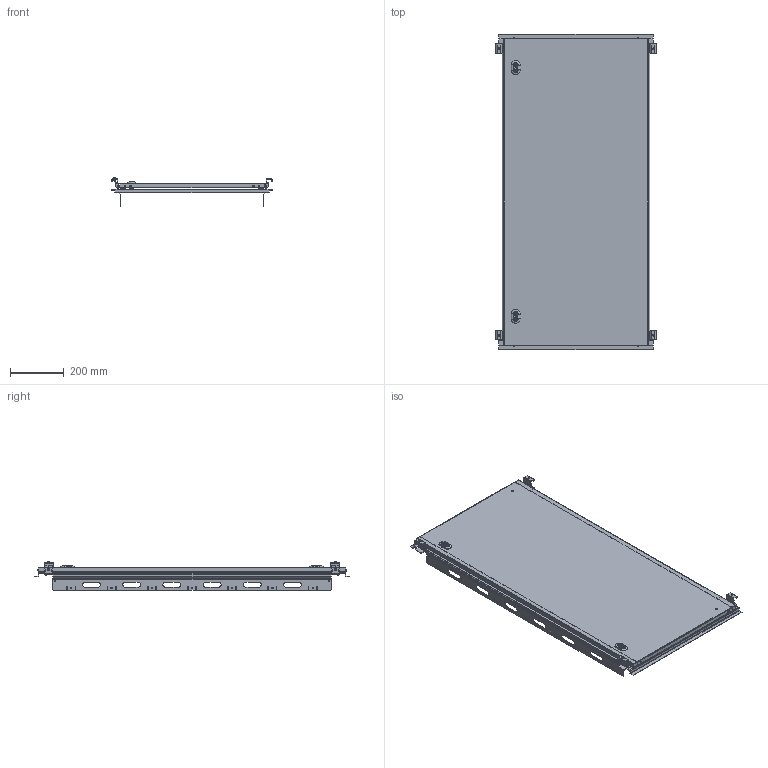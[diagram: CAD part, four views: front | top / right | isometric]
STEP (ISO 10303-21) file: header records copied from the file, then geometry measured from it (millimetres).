
FILE_DESCRIPTION (( 'STEP AP203' ), '1' );
FILE_NAME ('ECPI060120.STEP', '2021-04-09T14:05:18', ( '' ), ( '' ), 'SwSTEP 2.0', 'SolidWorks 2019', '' );
FILE_SCHEMA (( 'CONFIG_CONTROL_DESIGN' ));
Length unit declared in the file: millimetre
Products named in the file (30): 30101127_Varsay考an; 011105000505; PERNO FILETTATO A SALDARE DIN32501_M6x15_ramato; 00008010002_01; 15008030001_01; 30302473-30302488-30302489-30302490_30302473_02; 30603002_Varsay考an; 32005059_Varsay考an; 03008031301_17; 03008060009_08; 05008031301_17; 10008060002_01; Vite TRI TCB TORX DIN 7500_Vite trilobata TCB TORX M5x10 DIN 7500; 30802075_Varsay考an; 32002221; 03008060007_04; 04008031301_17; 17008030001_01; ECOR_Assieme box chiusura_02; 10008060001_01; 10008030002_01; 00008030003_01; 10008030001_01; 30402044_Varsay考an; Vite TRI TPS TORX DIN 7500_Vite trilobata TPS TORX M5x10 DIN7500; 32002220_Varsay考an; ECPI060120
Assembly tree (63 placements, depth 5):
  ECPI060120
    00008010002_01  x4
    05008031301_17
      04008031301_17
        03008031301_17
        PERNO FILETTATO A SALDARE DIN32501_M6x15_ramato  x2
        17008030001_01
          10008030002_01
        17008030001_01
          10008030002_01
    ECOR_Assieme box chiusura_02
      30302473-30302488-30302489-30302490_30302473_02
      30101127_Varsay考an
      30802075_Varsay考an
      32005059_Varsay考an
      30402044_Varsay考an
      30603002_Varsay考an
      32002221
      32002220_Varsay考an
    ECOR_Assieme box chiusura_02
      30302473-30302488-30302489-30302490_30302473_02
      30101127_Varsay考an
      30802075_Varsay考an
      32005059_Varsay考an
      30402044_Varsay考an
      30603002_Varsay考an
      32002221
      32002220_Varsay考an
    15008030001_01
      10008030001_01
    15008030001_01
      10008030001_01
    Vite TRI TPS TORX DIN 7500_Vite trilobata TPS TORX M5x10 DIN7500  x10
    011105000505  x2
    00008030003_01  x2
    03008060007_04  x2
    03008060009_08  x2
    10008060001_01  x4
    10008060002_01  x4
    Vite TRI TCB TORX DIN 7500_Vite trilobata TCB TORX M5x10 DIN 7500  x2
Bounding box: 597 x 1176.4 x 107.81 mm (x, y, z)
Volume: 1382858.3 mm3; surface area: 1995589.6 mm2
Topology: 71 solids, 71 shells, 4320 faces, 11252 edges, 7136 vertices
Faces by surface type: plane 2258, cylinder 1270, bspline 520, cone 188, torus 76, sphere 8
Entity records: 75409 total; most frequent: CARTESIAN_POINT 24343, ORIENTED_EDGE 10292, DIRECTION 9021, EDGE_CURVE 5146, VERTEX_POINT 3279, VECTOR 3223, LINE 3223, AXIS2_PLACEMENT_3D 2899
